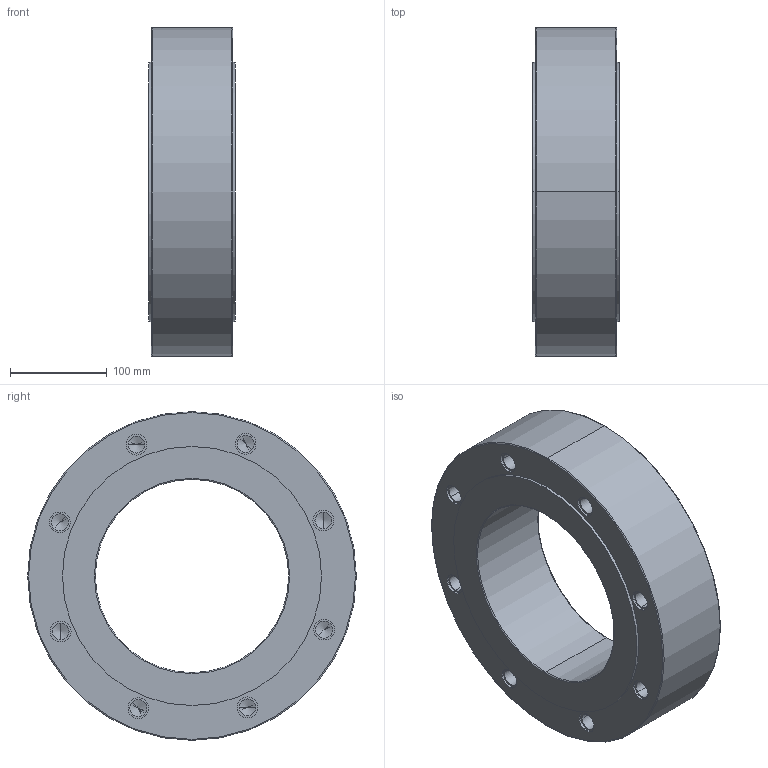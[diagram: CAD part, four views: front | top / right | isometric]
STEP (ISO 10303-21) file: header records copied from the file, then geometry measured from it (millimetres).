
FILE_DESCRIPTION (( 'STEP AP203' ), '1' );
FILE_NAME ('W8_PN10_DN200.STEP', '2012-10-31T06:58:11', ( 'luca.saino' ), ( 'Hewlett-Packard Company' ), 'SwSTEP 2.0', 'SolidWorks 2012', '' );
FILE_SCHEMA (( 'CONFIG_CONTROL_DESIGN' ));
Length unit declared in the file: millimetre
Products named in the file (1): W8_PN10_DN200
Bounding box: 90 x 340 x 340 mm (x, y, z)
Volume: 5026590.2 mm3; surface area: 292637.3 mm2
Topology: 1 solids, 1 shells, 132 faces, 296 edges, 168 vertices
Faces by surface type: cylinder 72, cone 32, plane 20, torus 8
Entity records: 3557 total; most frequent: DIRECTION 690, CARTESIAN_POINT 565, ORIENTED_EDGE 528, AXIS2_PLACEMENT_3D 293, EDGE_CURVE 264, VERTEX_POINT 168, EDGE_LOOP 168, CIRCLE 160
